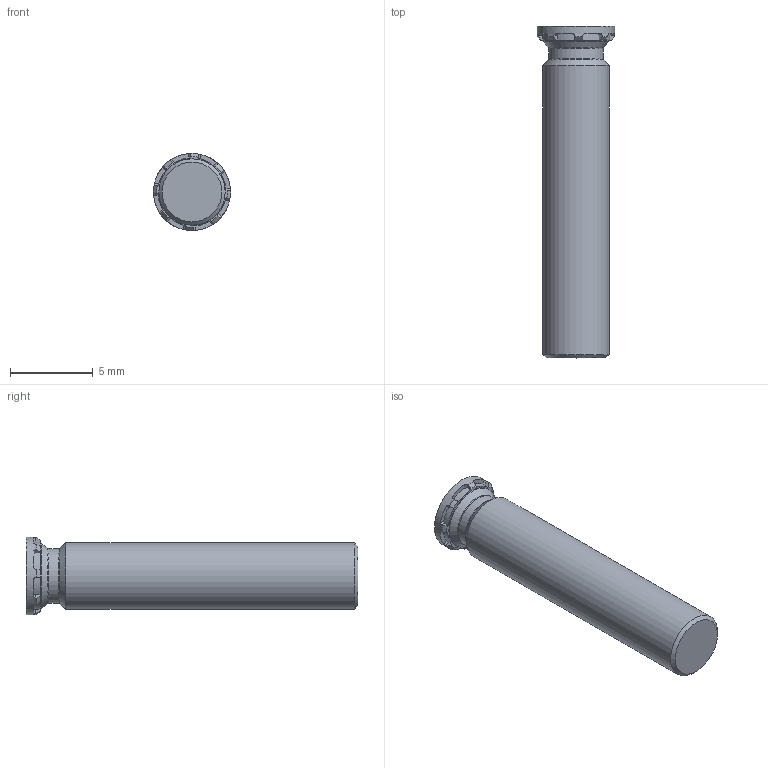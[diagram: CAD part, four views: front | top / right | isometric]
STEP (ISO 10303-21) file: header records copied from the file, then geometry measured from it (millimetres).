
FILE_DESCRIPTION(/* description */ (''),/* implementation_level */ '2;1');
FILE_NAME(/* name */ 'C:\Users\keval.kumar\Desktop\Fastit\Clinch Screw- Reduced FH Range\M4\Clinch Screw-Reduced FH Range_M4x20.stp',/* time_stamp */ '2024-03-12T13:54:18+05:00',/* author */ ('keval.kumar'),/* organization */ (''),/* preprocessor_version */ 'ST-DEVELOPER v18.1',/* originating_system */ 'Autodesk Inventor 2022',/* authorisation */ '');
FILE_SCHEMA (('AUTOMOTIVE_DESIGN { 1 0 10303 214 3 1 1 }'));
Length unit declared in the file: millimetre
Products named in the file (1): Clinch Screw-Reduced FH Range_M4x20
Bounding box: 4.65 x 20 x 4.65 mm (x, y, z)
Volume: 249.2 mm3; surface area: 286.2 mm2
Topology: 1 solids, 1 shells, 68 faces, 193 edges, 128 vertices
Faces by surface type: plane 43, cylinder 12, cone 11, torus 2
Full cylindrical faces by diameter (mm): 3.3 x1, 3.9 x1, 4 x1, 4.65 x1
Entity records: 2278 total; most frequent: CARTESIAN_POINT 422, DIRECTION 405, ORIENTED_EDGE 386, EDGE_CURVE 193, AXIS2_PLACEMENT_3D 159, VERTEX_POINT 128, LINE 87, VECTOR 87
